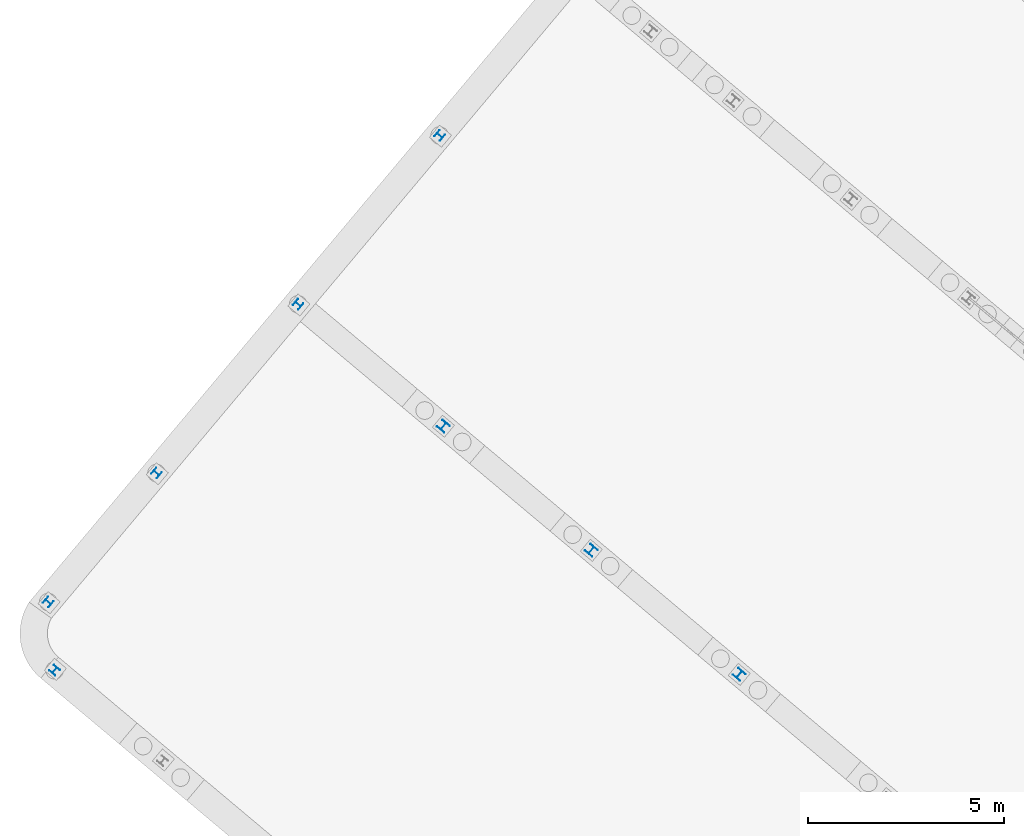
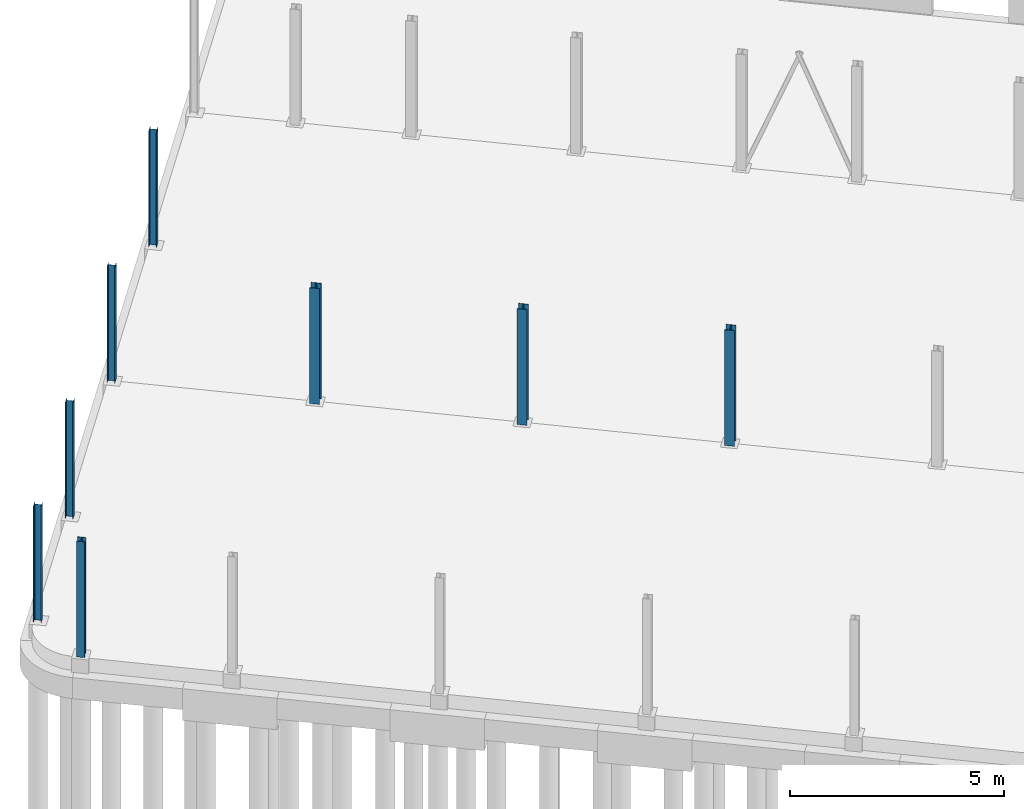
# One storey, part 9 of 26: 8 columns.
"""IFC2X3 building model written with IfcOpenShell, lengths in millimetres."""

import ifcopenshell
import ifcopenshell.guid

model = None  # the IFC model being written
_history = None  # IfcOwnerHistory: only IFC2X3 demands one
_inside = {}  # id of a spatial element -> (the spatial element, [elements in it])
_under = {}  # id of a project, library or spatial element -> (it, [spatial elements below it])
_declared = {}  # id of a project -> (the project, [libraries it declares])
_typed = {}  # id of a type object -> (the type object, [elements of that type])
_made_of = {}  # id of a material, layer set ... -> (it, [elements and type objects made of it])


def new_model(schema):
    """Start an empty IFC model of exactly this schema.

    Asked for "IFC4X3", IfcOpenShell would pick the latest addendum, in which some entities
    have other attributes; the version numbers below select the first issue.
    IFC2X3 requires an IfcOwnerHistory on every rooted entity: one is made here for all.
    """
    global model, _history
    if schema == "IFC4X3":
        model = ifcopenshell.file(schema_version=(4, 3, 0, 0))
    else:
        model = ifcopenshell.file(schema=schema)
    _inside.clear()
    _under.clear()
    _declared.clear()
    _typed.clear()
    _made_of.clear()
    _history = None
    if model.schema == "IFC2X3":
        org = make("IfcOrganization", Name="unknown")
        user = make(
            "IfcPersonAndOrganization",
            ThePerson=make("IfcPerson", FamilyName="unknown"),
            TheOrganization=org,
        )
        app = make(
            "IfcApplication",
            ApplicationDeveloper=org,
            Version="unknown",
            ApplicationFullName="unknown",
            ApplicationIdentifier="unknown",
        )
        _history = make(
            "IfcOwnerHistory",
            OwningUser=user,
            OwningApplication=app,
            ChangeAction="ADDED",
            CreationDate=0,
        )
    return model


def make(cls, **values):
    """One entity of the class cls with the attributes given. An attribute that is None is left unset."""
    return model.create_entity(
        cls, **{name: value for name, value in values.items() if value is not None}
    )


def entity(cls, *values):
    """Any entity or typed value of the class cls, its attributes in the order of the schema. None: left unset."""
    e = model.create_entity(cls)
    for i, value in enumerate(values):
        if value is not None:
            e[i] = value
    return e


def rooted(cls, **values):
    """An entity with a GlobalId (a new one), such as an element, a storey or a relation."""
    return make(cls, GlobalId=ifcopenshell.guid.new(), OwnerHistory=_history, **values)


def si_unit(unit_type, name, prefix=None):
    """IfcSIUnit, for example si_unit("LENGTHUNIT", "METRE", prefix="MILLI")."""
    return make("IfcSIUnit", UnitType=unit_type, Prefix=prefix, Name=name)


def converted_unit(unit_type, name, factor, base, dimensions=None, offset=None):
    """IfcConversionBasedUnit, such as the inch: factor (a typed value) times the base unit."""
    return make(
        "IfcConversionBasedUnit"
        if offset is None
        else "IfcConversionBasedUnitWithOffset",
        ConversionOffset=offset,
        Dimensions=None
        if dimensions is None
        else entity("IfcDimensionalExponents", *dimensions),
        UnitType=unit_type,
        Name=name,
        ConversionFactor=make(
            "IfcMeasureWithUnit", ValueComponent=factor, UnitComponent=base
        ),
    )


def derived_unit(unit_type, elements):
    """IfcDerivedUnit: a product of units, each with its exponent."""
    return make(
        "IfcDerivedUnit",
        Elements=[
            make("IfcDerivedUnitElement", Unit=unit, Exponent=power)
            for unit, power in elements
        ],
        UnitType=unit_type,
    )


def assignment(units):
    """IfcUnitAssignment: the units of a project."""
    return None if units is None else make("IfcUnitAssignment", Units=units)


def point(xyz):
    """IfcCartesianPoint."""
    return None if xyz is None else make("IfcCartesianPoint", Coordinates=xyz)


def direction(xyz):
    """IfcDirection."""
    return None if xyz is None else make("IfcDirection", DirectionRatios=xyz)


def frame(location, z_axis=None, x_axis=None):
    """IfcAxis2Placement3D, a coordinate frame: its origin and axes. An axis left out is left unset."""
    return make(
        "IfcAxis2Placement3D",
        Location=point(location),
        Axis=direction(z_axis),
        RefDirection=direction(x_axis),
    )


def frame_2d(location, x_axis=None):
    """IfcAxis2Placement2D, a coordinate frame in the plane: its origin and x axis."""
    return make(
        "IfcAxis2Placement2D", Location=point(location), RefDirection=direction(x_axis)
    )


def origin():
    """The frame at (0, 0, 0) with its axes left unset."""
    return frame((0.0, 0.0, 0.0))


def origin_2d_with_axis():
    """The frame at (0, 0) in the plane with the x axis (1, 0) written out."""
    return frame_2d((0.0, 0.0), x_axis=(1.0, 0.0))


def place(relative_to, where):
    """IfcLocalPlacement: puts the frame where relative to a parent placement (None: the world)."""
    return make(
        "IfcLocalPlacement", PlacementRelTo=relative_to, RelativePlacement=where
    )


def context(
    kind, dimensions, precision=None, world=None, true_north=None, identifier=None
):
    """IfcGeometricRepresentationContext, for example the 3D "Model" context."""
    return make(
        "IfcGeometricRepresentationContext",
        ContextIdentifier=identifier,
        ContextType=kind,
        CoordinateSpaceDimension=dimensions,
        Precision=precision,
        WorldCoordinateSystem=world,
        TrueNorth=true_north,
    )


def subcontext(parent, identifier, kind, view, scale=None):
    """IfcGeometricRepresentationSubContext, for example "Body" below "Model"."""
    return make(
        "IfcGeometricRepresentationSubContext",
        ContextIdentifier=identifier,
        ContextType=kind,
        ParentContext=parent,
        TargetScale=scale,
        TargetView=view,
    )


def project(units=None, contexts=None):
    """IfcProject with its units and contexts."""
    return rooted(
        "IfcProject",
        Name="project",
        RepresentationContexts=contexts,
        UnitsInContext=assignment(units),
    )


def spatial(cls, under=None, at=None, **own):
    """A site, building, storey or space (cls), placed at a placement, below another one or the project."""
    s = rooted(cls, ObjectPlacement=at, **own)
    if under is not None:
        _under.setdefault(under.id(), (under, []))[1].append(s)
    return s


def profile(cls, at=None, kind="AREA", **sizes):
    """A parametric profile (cls). Its sizes go by their IFC names, for example OverallWidth=200.0."""
    return make(cls, ProfileType=kind, Position=at, **sizes)


def i_section(**sizes):
    """IfcIShapeProfileDef."""
    return profile("IfcIShapeProfileDef", **sizes)


def extrude(swept, where, along, depth):
    """IfcExtrudedAreaSolid: the profile swept, set in the frame where, extruded along a direction by depth."""
    return make(
        "IfcExtrudedAreaSolid",
        SweptArea=swept,
        Position=where,
        ExtrudedDirection=direction(along),
        Depth=depth,
    )


def shape(context_of_items, identifier, shape_type, items):
    """IfcShapeRepresentation: the items that make up one representation, for example the "Body"."""
    return make(
        "IfcShapeRepresentation",
        ContextOfItems=context_of_items,
        RepresentationIdentifier=identifier,
        RepresentationType=shape_type,
        Items=items,
    )


def source(mapping_origin, context_of_items, identifier, shape_type, items):
    """IfcRepresentationMap: a shape defined once, which mapped items show again and again."""
    return make(
        "IfcRepresentationMap",
        MappingOrigin=mapping_origin,
        MappedRepresentation=shape(context_of_items, identifier, shape_type, items),
    )


def transform(
    local_origin,
    x_axis=None,
    y_axis=None,
    z_axis=None,
    scale=None,
    scale2=None,
    scale3=None,
    uniform=True,
):
    """IfcCartesianTransformationOperator3D, or its non-uniform kind. x_axis, y_axis, z_axis: its Axis1, 2, 3."""
    if uniform:
        return make(
            "IfcCartesianTransformationOperator3D",
            Axis1=direction(x_axis),
            Axis2=direction(y_axis),
            LocalOrigin=point(local_origin),
            Scale=scale,
            Axis3=direction(z_axis),
        )
    return make(
        "IfcCartesianTransformationOperator3DnonUniform",
        Axis1=direction(x_axis),
        Axis2=direction(y_axis),
        LocalOrigin=point(local_origin),
        Scale=scale,
        Axis3=direction(z_axis),
        Scale2=scale2,
        Scale3=scale3,
    )


def mapped(mapping_source, mapping_target):
    """IfcMappedItem: shows the shape of a source again, moved by a transform."""
    return make(
        "IfcMappedItem", MappingSource=mapping_source, MappingTarget=mapping_target
    )


def material(Name=None, Category=None):
    """IfcMaterial."""
    return make("IfcMaterial", Name=Name, Category=Category)


def made_of(thing, what):
    """Note that an element or type object is made of a material, layer set ...; save() writes the relation."""
    if what is not None:
        _made_of.setdefault(what.id(), (what, []))[1].append(thing)
    return thing


def type_object(cls, material=None, **own):
    """A type object (cls), such as IfcWallType, which elements share."""
    return made_of(rooted(cls, **own), material)


def type_shapes(of_type, sources):
    """Give a type object the sources (RepresentationMaps) that its elements show as mapped items."""
    of_type.RepresentationMaps = sources


def element(
    cls,
    number,
    at=None,
    inside=None,
    cuts=None,
    type_object=None,
    material=None,
    context=None,
    identifier="Body",
    shape_type=None,
    held_by="IfcProductDefinitionShape",
    body=None,
    shapes=None,
    **own,
):
    """One element of the class cls, such as IfcWall. Its Tag is "e" and its number.

    at: its placement. inside: the storey or other place that contains it. cuts: it is an
    opening in that element (IfcRelVoidsElement). A single representation is given by context,
    identifier, shape_type and body (its items); several are given by shapes. held_by: the class
    of the entity that holds the representations. save() writes the other relations.
    """
    e = rooted(cls, Tag="e%d" % number, ObjectPlacement=at, **own)
    if body is not None:
        shapes = [shape(context, identifier, shape_type, body)]
    if shapes is not None:
        e.Representation = make(held_by, Representations=shapes)
    if inside is not None:
        _inside.setdefault(inside.id(), (inside, []))[1].append(e)
    if cuts is not None:
        rooted(
            "IfcRelVoidsElement", RelatingBuildingElement=cuts, RelatedOpeningElement=e
        )
    if type_object is not None:
        _typed.setdefault(type_object.id(), (type_object, []))[1].append(e)
    return made_of(e, material)


def aggregate(whole, parts):
    """IfcRelAggregates: a whole, such as a stair, and the parts it consists of."""
    return rooted("IfcRelAggregates", RelatingObject=whole, RelatedObjects=parts)


def save(model, path):
    """Write the relations noted so far, then the file.

    IfcRelAggregates (storeys below a building ...), IfcRelContainedInSpatialStructure (elements
    in a storey), IfcRelDefinesByType, IfcRelAssociatesMaterial and IfcRelDeclares: one each for
    every whole, place, type object, material and project.
    """
    for whole, parts in _under.values():
        aggregate(whole, parts)
    for where, things in _inside.values():
        rooted(
            "IfcRelContainedInSpatialStructure",
            RelatedElements=things,
            RelatingStructure=where,
        )
    for kind, things in _typed.values():
        rooted("IfcRelDefinesByType", RelatedObjects=things, RelatingType=kind)
    for what, things in _made_of.values():
        rooted("IfcRelAssociatesMaterial", RelatedObjects=things, RelatingMaterial=what)
    for by, libraries in _declared.values():
        rooted("IfcRelDeclares", RelatingContext=by, RelatedDefinitions=libraries)
    model.write(path)


model = new_model("IFC2X3")

# Units and contexts
model_context = context("Model", 3, precision=0.01, world=origin(), true_north=direction((6.123031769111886e-17, 1.0)))
body_context = subcontext(model_context, "Body", "Model", "MODEL_VIEW")
ifc_project = project(units=[si_unit("LENGTHUNIT", "METRE", prefix="MILLI"), si_unit("AREAUNIT", "SQUARE_METRE"), si_unit("VOLUMEUNIT", "CUBIC_METRE"), derived_unit("MASSDENSITYUNIT", [(si_unit("MASSUNIT", "GRAM", prefix="KILO"), 1), (si_unit("LENGTHUNIT", "METRE"), -3)]), si_unit("MASSUNIT", "GRAM", prefix="KILO"), converted_unit("PLANEANGLEUNIT", "DEGREE", entity("IfcPlaneAngleMeasure", 0.017453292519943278), si_unit("PLANEANGLEUNIT", "RADIAN"), dimensions=[0, 0, 0, 0, 0, 0, 0])], contexts=[model_context])

# Site, building, storey
site_placement = place(None, origin())
site = spatial("IfcSite", under=ifc_project, at=site_placement, Name="Default", CompositionType="ELEMENT")
building_placement = place(site_placement, origin())
building = spatial("IfcBuilding", under=site, at=building_placement, Name="AT constructie", CompositionType="ELEMENT")
storey_placement = place(building_placement, origin())
storey = spatial("IfcBuildingStorey", under=building, at=storey_placement, Name="00 begane grond", CompositionType="ELEMENT", Elevation=-1.0828671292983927e-12)

# Columns
ifc_material = material(Name="h2_staal_S355")
column_type_1 = type_object("IfcColumnType", Name="kolom_gen_HEA200", PredefinedType="COLUMN", material=ifc_material)
shared_shape_1 = source(origin(), body_context, "Body", "SweptSolid", [
    extrude(i_section(OverallWidth=199.99999999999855, OverallDepth=190.00000000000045, WebThickness=6.499999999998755, FlangeThickness=9.999999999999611, FilletRadius=18.0, at=frame_2d((-1.2434497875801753e-12, -1.0516032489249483e-12), x_axis=(1.0, 0.0))), frame((7181.548554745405, 35335.31371650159, -50.0), z_axis=(0.0, 0.0, 1.0), x_axis=(0.7660444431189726, -0.6427876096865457, 0.0)), (0.0, 0.0, 1.0), 3307.9999999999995),
])
type_shapes(column_type_1, [shared_shape_1])
column_1_placement = place(storey_placement, origin())
element("IfcColumn", 1, at=column_1_placement, inside=storey, type_object=column_type_1, material=ifc_material, Name="NLRS_28_SC_TLB_kolom HEA_gen_AT:kolom_gen_HEA200", ObjectType="NLRS_28_SC_TLB_kolom HEA_gen_AT:kolom_gen_HEA200", context=body_context, shape_type="MappedRepresentation", body=[
    mapped(shared_shape_1, transform((0.0, 0.0, 0.0), scale=1.0)),
])
column_type_2 = type_object("IfcColumnType", Name="kolom_gen_HEA240", PredefinedType="COLUMN", material=ifc_material)
shared_shape_2 = source(origin(), body_context, "Body", "SweptSolid", [
    extrude(i_section(OverallWidth=240.0000000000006, OverallDepth=229.9999999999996, WebThickness=7.500000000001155, FlangeThickness=12.000000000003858, FilletRadius=21.0, at=frame_2d((1.3926637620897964e-12, -1.6555645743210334e-12), x_axis=(1.0, 0.0))), frame((24662.802545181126, 35228.61825311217, -50.0), z_axis=(0.0, 0.0, 1.0), x_axis=(0.7660444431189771, -0.6427876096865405, 0.0)), (0.0, 0.0, 1.0), 3307.9999999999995),
])
type_shapes(column_type_2, [shared_shape_2])
column_2_placement = place(storey_placement, origin())
element("IfcColumn", 2, at=column_2_placement, inside=storey, type_object=column_type_2, material=ifc_material, Name="NLRS_28_SC_TLB_kolom HEA_gen_AT:kolom_gen_HEA240", ObjectType="NLRS_28_SC_TLB_kolom HEA_gen_AT:kolom_gen_HEA240", context=body_context, shape_type="MappedRepresentation", body=[
    mapped(shared_shape_2, transform((0.0, 0.0, 0.0), scale=1.0)),
])
column_type_3 = type_object("IfcColumnType", Name="kolom_gen_HEA240", PredefinedType="COLUMN", material=ifc_material)
shared_shape_3 = source(origin(), body_context, "Body", "SweptSolid", [
    extrude(i_section(OverallWidth=240.0000000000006, OverallDepth=229.9999999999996, WebThickness=7.500000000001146, FlangeThickness=12.000000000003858, FilletRadius=21.0, at=frame_2d((-1.9326762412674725e-12, -4.447997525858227e-12), x_axis=(1.0, 0.0))), frame((20886.203440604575, 38397.56116886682, -50.0), z_axis=(0.0, 0.0, 1.0), x_axis=(0.7660444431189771, -0.6427876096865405, 0.0)), (0.0, 0.0, 1.0), 3307.9999999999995),
])
type_shapes(column_type_3, [shared_shape_3])
column_3_placement = place(storey_placement, origin())
element("IfcColumn", 3, at=column_3_placement, inside=storey, type_object=column_type_3, material=ifc_material, Name="NLRS_28_SC_TLB_kolom HEA_gen_AT:kolom_gen_HEA240", ObjectType="NLRS_28_SC_TLB_kolom HEA_gen_AT:kolom_gen_HEA240", context=body_context, shape_type="MappedRepresentation", body=[
    mapped(shared_shape_3, transform((0.0, 0.0, 0.0), scale=1.0)),
])
column_type_4 = type_object("IfcColumnType", Name="kolom_gen_HEA240", PredefinedType="COLUMN", material=ifc_material)
shared_shape_4 = source(origin(), body_context, "Body", "SweptSolid", [
    extrude(i_section(OverallWidth=240.00000000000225, OverallDepth=229.99999999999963, WebThickness=7.499999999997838, FlangeThickness=12.000000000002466, FilletRadius=21.0, at=origin_2d_with_axis()), frame((17109.60433602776, 41566.50408462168, -50.0), z_axis=(0.0, 0.0, 1.0), x_axis=(0.7660444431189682, -0.642787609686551, 0.0)), (0.0, 0.0, 1.0), 3307.9999999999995),
])
type_shapes(column_type_4, [shared_shape_4])
column_4_placement = place(storey_placement, origin())
element("IfcColumn", 4, at=column_4_placement, inside=storey, type_object=column_type_4, material=ifc_material, Name="NLRS_28_SC_TLB_kolom HEA_gen_AT:kolom_gen_HEA240", ObjectType="NLRS_28_SC_TLB_kolom HEA_gen_AT:kolom_gen_HEA240", context=body_context, shape_type="MappedRepresentation", body=[
    mapped(shared_shape_4, transform((0.0, 0.0, 0.0), scale=1.0)),
])
column_type_5 = type_object("IfcColumnType", Name="kolom_gen_HEA200", PredefinedType="COLUMN", material=ifc_material)
shared_shape_5 = source(origin(), body_context, "Body", "SweptSolid", [
    extrude(i_section(OverallWidth=199.99999999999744, OverallDepth=189.99999999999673, WebThickness=6.499999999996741, FlangeThickness=9.999999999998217, FilletRadius=18.0, at=frame_2d((-1.3926637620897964e-12, 1.6626700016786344e-12), x_axis=(1.0, 0.0))), frame((13397.978417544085, 44680.6425030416, -50.0), z_axis=(0.0, 0.0, 1.0), x_axis=(0.64278760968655, 0.7660444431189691, 0.0)), (0.0, 0.0, 1.0), 3307.9999999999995),
])
type_shapes(column_type_5, [shared_shape_5])
column_5_placement = place(storey_placement, origin())
element("IfcColumn", 5, at=column_5_placement, inside=storey, type_object=column_type_5, material=ifc_material, Name="NLRS_28_SC_TLB_kolom HEA_gen_AT:kolom_gen_HEA200", ObjectType="NLRS_28_SC_TLB_kolom HEA_gen_AT:kolom_gen_HEA200", context=body_context, shape_type="MappedRepresentation", body=[
    mapped(shared_shape_5, transform((0.0, 0.0, 0.0), scale=1.0)),
])
column_type_6 = type_object("IfcColumnType", Name="kolom_gen_HEA200", PredefinedType="COLUMN", material=ifc_material)
shared_shape_6 = source(origin(), body_context, "Body", "SweptSolid", [
    extrude(i_section(OverallWidth=199.99999999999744, OverallDepth=189.9999999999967, WebThickness=6.499999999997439, FlangeThickness=9.999999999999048, FilletRadius=18.0, at=frame_2d((6.629363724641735e-12, 5.5706550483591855e-12), x_axis=(1.0, 0.0))), frame((9782.29811305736, 40371.642510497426, -50.0), z_axis=(0.0, 0.0, 1.0), x_axis=(0.64278760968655, 0.7660444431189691, 0.0)), (0.0, 0.0, 1.0), 3307.9999999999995),
])
type_shapes(column_type_6, [shared_shape_6])
column_6_placement = place(storey_placement, origin())
element("IfcColumn", 6, at=column_6_placement, inside=storey, type_object=column_type_6, material=ifc_material, Name="NLRS_28_SC_TLB_kolom HEA_gen_AT:kolom_gen_HEA200", ObjectType="NLRS_28_SC_TLB_kolom HEA_gen_AT:kolom_gen_HEA200", context=body_context, shape_type="MappedRepresentation", body=[
    mapped(shared_shape_6, transform((0.0, 0.0, 0.0), scale=1.0)),
])
column_type_7 = type_object("IfcColumnType", Name="kolom_gen_HEA200", PredefinedType="COLUMN", material=ifc_material)
shared_shape_7 = source(origin(), body_context, "Body", "SweptSolid", [
    extrude(i_section(OverallWidth=200.00000000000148, OverallDepth=189.9999999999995, WebThickness=6.499999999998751, FlangeThickness=9.999999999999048, FilletRadius=18.0, at=frame_2d((4.369837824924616e-12, 1.5276668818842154e-12), x_axis=(1.0, 0.0))), frame((7018.3113914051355, 37077.651405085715, -50.0), z_axis=(0.0, 0.0, 1.0), x_axis=(0.6427876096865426, 0.7660444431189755, 0.0)), (0.0, 0.0, 1.0), 3307.999999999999),
])
type_shapes(column_type_7, [shared_shape_7])
column_7_placement = place(storey_placement, origin())
element("IfcColumn", 7, at=column_7_placement, inside=storey, type_object=column_type_7, material=ifc_material, Name="NLRS_28_SC_TLB_kolom HEA_gen_AT:kolom_gen_HEA200", ObjectType="NLRS_28_SC_TLB_kolom HEA_gen_AT:kolom_gen_HEA200", context=body_context, shape_type="MappedRepresentation", body=[
    mapped(shared_shape_7, transform((0.0, 0.0, 0.0), scale=1.0)),
])
column_type_8 = type_object("IfcColumnType", Name="kolom_gen_HEA200", PredefinedType="COLUMN", material=ifc_material)
shared_shape_8 = source(origin(), body_context, "Body", "SweptSolid", [
    extrude(i_section(OverallWidth=199.99999999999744, OverallDepth=189.9999999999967, WebThickness=6.499999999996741, FlangeThickness=9.999999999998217, FilletRadius=18.0, at=frame_2d((-6.629363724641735e-12, -5.5706550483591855e-12), x_axis=(1.0, 0.0))), frame((17013.65872203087, 48989.64249558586, -50.0), z_axis=(0.0, 0.0, 1.0), x_axis=(0.64278760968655, 0.7660444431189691, 0.0)), (0.0, 0.0, 1.0), 3307.9999999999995),
])
type_shapes(column_type_8, [shared_shape_8])
column_8_placement = place(storey_placement, origin())
element("IfcColumn", 8, at=column_8_placement, inside=storey, type_object=column_type_8, material=ifc_material, Name="NLRS_28_SC_TLB_kolom HEA_gen_AT:kolom_gen_HEA200", ObjectType="NLRS_28_SC_TLB_kolom HEA_gen_AT:kolom_gen_HEA200", context=body_context, shape_type="MappedRepresentation", body=[
    mapped(shared_shape_8, transform((0.0, 0.0, 0.0), scale=1.0)),
])

save(model, "model.ifc")
